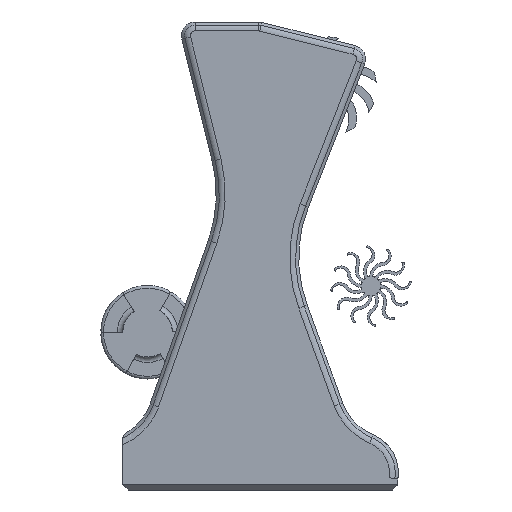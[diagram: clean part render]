
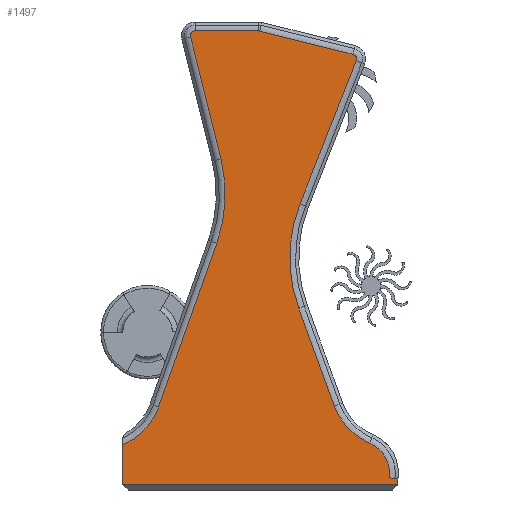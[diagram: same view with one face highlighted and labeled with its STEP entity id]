
A CAD part, front view. The second image highlights one B-rep face of the part: STEP entity #1497.
In plain terms, the highlighted planar face has unit normal (0, -1, 0).
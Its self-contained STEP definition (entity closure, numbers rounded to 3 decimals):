
#1497=ADVANCED_FACE('',(#11750),#11752,.F.);
#11750=FACE_BOUND('',#11751,.T.);
#11751=EDGE_LOOP('',(#20204,#20205,#20206,#20207,#20208,#20209,#20210,#20211,#20212,
#20213,#20214,#20215,#20216,#20217,#20218,#20219,#20220,#20221));
#11752=PLANE('',#11753);
#11753=AXIS2_PLACEMENT_3D('',#11754,#11755,#11756);
#11754=CARTESIAN_POINT('',(0.,0.,0.));
#11755=DIRECTION('',(0.,1.,0.));
#11756=DIRECTION('',(-1.,0.,0.));
#20204=ORIENTED_EDGE('',*,*,#24579,.F.);
#20205=ORIENTED_EDGE('',*,*,#24577,.F.);
#20206=ORIENTED_EDGE('',*,*,#25352,.F.);
#20207=ORIENTED_EDGE('',*,*,#24565,.F.);
#20208=ORIENTED_EDGE('',*,*,#25348,.F.);
#20209=ORIENTED_EDGE('',*,*,#25345,.F.);
#20210=ORIENTED_EDGE('',*,*,#25353,.F.);
#20211=ORIENTED_EDGE('',*,*,#25354,.F.);
#20212=ORIENTED_EDGE('',*,*,#25355,.F.);
#20213=ORIENTED_EDGE('',*,*,#25356,.F.);
#20214=ORIENTED_EDGE('',*,*,#25357,.F.);
#20215=ORIENTED_EDGE('',*,*,#25358,.F.);
#20216=ORIENTED_EDGE('',*,*,#25359,.F.);
#20217=ORIENTED_EDGE('',*,*,#25360,.F.);
#20218=ORIENTED_EDGE('',*,*,#25361,.F.);
#20219=ORIENTED_EDGE('',*,*,#25362,.F.);
#20220=ORIENTED_EDGE('',*,*,#25363,.F.);
#20221=ORIENTED_EDGE('',*,*,#25364,.F.);
#24565=EDGE_CURVE('',#29925,#29927,#29928,.T.);
#24577=EDGE_CURVE('',#29944,#29946,#29947,.T.);
#24579=EDGE_CURVE('',#29946,#29949,#29950,.T.);
#25345=EDGE_CURVE('',#31097,#31098,#31099,.T.);
#25348=EDGE_CURVE('',#31098,#29925,#31102,.T.);
#25352=EDGE_CURVE('',#29927,#29944,#31107,.T.);
#25353=EDGE_CURVE('',#31108,#31097,#31109,.T.);
#25354=EDGE_CURVE('',#31110,#31108,#31111,.T.);
#25355=EDGE_CURVE('',#31112,#31110,#31113,.T.);
#25356=EDGE_CURVE('',#31114,#31112,#31115,.T.);
#25357=EDGE_CURVE('',#31116,#31114,#31117,.F.);
#25358=EDGE_CURVE('',#31118,#31116,#31119,.T.);
#25359=EDGE_CURVE('',#31120,#31118,#31121,.F.);
#25360=EDGE_CURVE('',#31122,#31120,#31123,.T.);
#25361=EDGE_CURVE('',#31124,#31122,#31125,.F.);
#25362=EDGE_CURVE('',#31126,#31124,#31127,.T.);
#25363=EDGE_CURVE('',#31128,#31126,#31129,.T.);
#25364=EDGE_CURVE('',#29949,#31128,#31130,.T.);
#29925=VERTEX_POINT('',#43114);
#29927=VERTEX_POINT('',#43118);
#29928=LINE('',#43119,#43120);
#29944=VERTEX_POINT('',#43182);
#29946=VERTEX_POINT('',#43186);
#29947=LINE('',#43187,#43188);
#29949=VERTEX_POINT('',#43219);
#29950=CIRCLE('',#43220,23.243);
#31097=VERTEX_POINT('',#46686);
#31098=VERTEX_POINT('',#46687);
#31099=CIRCLE('',#46688,11.757);
#31102=LINE('',#46708,#46709);
#31107=LINE('',#46724,#46725);
#31108=VERTEX_POINT('',#46727);
#31109=CIRCLE('',#46728,23.243);
#31110=VERTEX_POINT('',#46732);
#31111=LINE('',#46733,#46734);
#31112=VERTEX_POINT('',#46736);
#31113=CIRCLE('',#46737,53.243);
#31114=VERTEX_POINT('',#46741);
#31115=LINE('',#46742,#46743);
#31116=VERTEX_POINT('',#46745);
#31117=CIRCLE('',#46746,1.757);
#31118=VERTEX_POINT('',#46750);
#31119=LINE('',#46751,#46752);
#31120=VERTEX_POINT('',#46754);
#31121=CIRCLE('',#46755,1.757);
#31122=VERTEX_POINT('',#46759);
#31123=LINE('',#46760,#46761);
#31124=VERTEX_POINT('',#46763);
#31125=CIRCLE('',#46764,1.757);
#31126=VERTEX_POINT('',#46768);
#31127=LINE('',#46769,#46770);
#31128=VERTEX_POINT('',#46772);
#31129=CIRCLE('',#46773,53.243);
#31130=LINE('',#46777,#46778);
#43114=CARTESIAN_POINT('',(50.,0.,4.));
#43118=CARTESIAN_POINT('',(50.,0.,2.));
#43119=CARTESIAN_POINT('',(50.,0.,4.));
#43120=VECTOR('',#43121,1.);
#43121=DIRECTION('',(0.,0.,-1.));
#43182=CARTESIAN_POINT('',(-50.,0.,2.));
#43186=CARTESIAN_POINT('',(-50.,0.,16.444));
#43187=CARTESIAN_POINT('',(-50.,0.,2.));
#43188=VECTOR('',#43189,1.);
#43189=DIRECTION('',(0.,0.,1.));
#43219=CARTESIAN_POINT('',(-36.944,0.,30.156));
#43220=AXIS2_PLACEMENT_3D('',#43221,#43222,#43223);
#43221=CARTESIAN_POINT('',(-58.846,0.,37.937));
#43222=DIRECTION('',(0.,-1.,0.));
#43223=DIRECTION('',(0.381,0.,-0.925));
#46686=CARTESIAN_POINT('',(39.738,0.,17.013));
#46687=CARTESIAN_POINT('',(46.792,0.,4.472));
#46688=AXIS2_PLACEMENT_3D('',#46689,#46690,#46691);
#46689=CARTESIAN_POINT('',(35.16,0.,6.184));
#46690=DIRECTION('',(0.,1.,0.));
#46691=DIRECTION('',(0.389,0.,0.921));
#46708=CARTESIAN_POINT('',(46.792,0.,4.472));
#46709=VECTOR('',#46710,1.);
#46710=DIRECTION('',(0.989,0.,-0.146));
#46724=CARTESIAN_POINT('',(50.,0.,2.));
#46725=VECTOR('',#46726,1.);
#46726=DIRECTION('',(-1.,0.,0.));
#46727=CARTESIAN_POINT('',(26.954,0.,30.451));
#46728=AXIS2_PLACEMENT_3D('',#46729,#46730,#46731);
#46729=CARTESIAN_POINT('',(48.787,0.,38.422));
#46730=DIRECTION('',(0.,-1.,0.));
#46731=DIRECTION('',(-0.939,0.,-0.343));
#46732=CARTESIAN_POINT('',(13.936,0.,66.112));
#46733=CARTESIAN_POINT('',(13.936,0.,66.112));
#46734=VECTOR('',#46735,1.);
#46735=DIRECTION('',(0.343,0.,-0.939));
#46736=CARTESIAN_POINT('',(14.412,0.,103.882));
#46737=AXIS2_PLACEMENT_3D('',#46738,#46739,#46740);
#46738=CARTESIAN_POINT('',(63.95,0.,84.37));
#46739=DIRECTION('',(0.,-1.,0.));
#46740=DIRECTION('',(-0.93,0.,0.366));
#46741=CARTESIAN_POINT('',(34.895,0.,155.887));
#46742=CARTESIAN_POINT('',(34.895,0.,155.887));
#46743=VECTOR('',#46744,1.);
#46744=DIRECTION('',(-0.366,0.,-0.93));
#46745=CARTESIAN_POINT('',(33.686,0.,158.236));
#46746=AXIS2_PLACEMENT_3D('',#46747,#46748,#46749);
#46747=CARTESIAN_POINT('',(33.26,0.,156.531));
#46748=DIRECTION('',(0.,-1.,0.));
#46749=DIRECTION('',(0.93,0.,-0.366));
#46750=CARTESIAN_POINT('',(-0.189,0.,166.705));
#46751=CARTESIAN_POINT('',(-0.189,0.,166.705));
#46752=VECTOR('',#46753,1.);
#46753=DIRECTION('',(0.97,0.,-0.243));
#46754=CARTESIAN_POINT('',(-0.616,0.,166.757));
#46755=AXIS2_PLACEMENT_3D('',#46756,#46757,#46758);
#46756=CARTESIAN_POINT('',(-0.616,0.,165.));
#46757=DIRECTION('',(0.,-1.,0.));
#46758=DIRECTION('',(0.243,0.,0.97));
#46759=CARTESIAN_POINT('',(-23.607,0.,166.757));
#46760=CARTESIAN_POINT('',(-23.607,0.,166.757));
#46761=VECTOR('',#46762,1.);
#46762=DIRECTION('',(1.,0.,0.));
#46763=CARTESIAN_POINT('',(-25.312,0.,164.576));
#46764=AXIS2_PLACEMENT_3D('',#46765,#46766,#46767);
#46765=CARTESIAN_POINT('',(-23.607,0.,165.));
#46766=DIRECTION('',(0.,-1.,0.));
#46767=DIRECTION('',(0.,0.,1.));
#46768=CARTESIAN_POINT('',(-14.313,0.,120.28));
#46769=CARTESIAN_POINT('',(-14.313,0.,120.28));
#46770=VECTOR('',#46771,1.);
#46771=DIRECTION('',(-0.241,0.,0.971));
#46772=CARTESIAN_POINT('',(-15.816,0.,89.624));
#46773=AXIS2_PLACEMENT_3D('',#46774,#46775,#46776);
#46774=CARTESIAN_POINT('',(-65.986,0.,107.449));
#46775=DIRECTION('',(0.,-1.,0.));
#46776=DIRECTION('',(0.942,0.,-0.335));
#46777=CARTESIAN_POINT('',(-36.944,0.,30.156));
#46778=VECTOR('',#46779,1.);
#46779=DIRECTION('',(0.335,0.,0.942));
